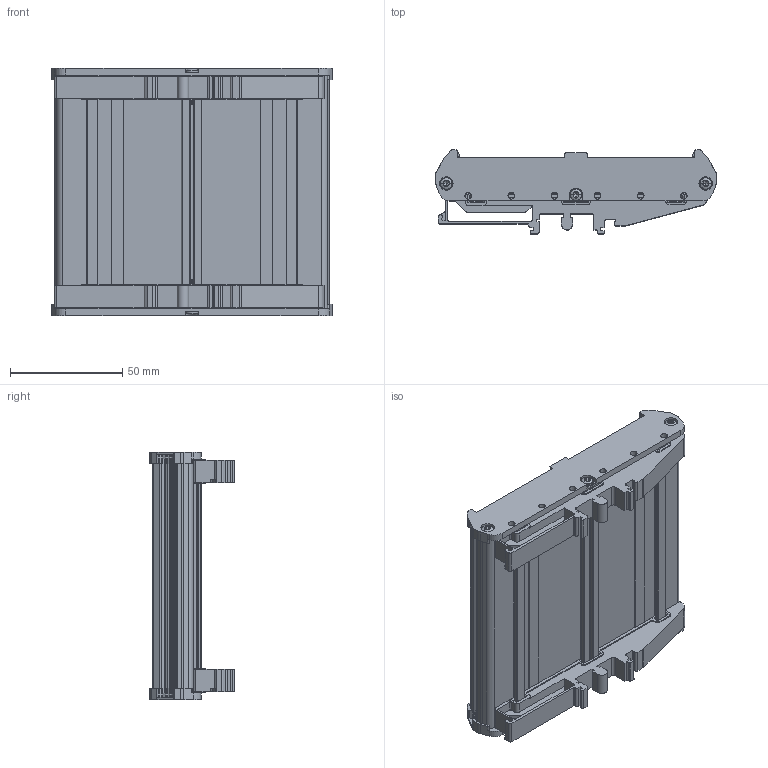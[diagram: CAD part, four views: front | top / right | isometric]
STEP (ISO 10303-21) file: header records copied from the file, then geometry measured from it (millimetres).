
FILE_DESCRIPTION(/* description */ (''),/* implementation_level */ '2;1');
FILE_NAME(/* name */ 'C:\Users\thijs\Desktop\Zilvertron\Phoenix\6001695\6001695.stp',/* time_stamp */ '2019-11-01T15:05:30+01:00',/* author */ ('thijs'),/* organization */ (''),/* preprocessor_version */ 'ST-DEVELOPER v18',/* originating_system */ 'Autodesk Inventor 2020',/* authorisation */ '');
FILE_SCHEMA (('AUTOMOTIVE_DESIGN { 1 0 10303 214 3 1 1 }'));
Length unit declared in the file: millimetre
Products named in the file (8): 6001695; UM_108_Profil_H_L=104; 39297; 39297_05; 39297_06; 39297_07; 39297_08; 39296
Assembly tree (9 placements, depth 3):
  6001695
    39297  x2
      39297_05
      39297_06
      39297_07
      39297_08
    UM_108_Profil_H_L=104
    39296  x2
Bounding box: 125.4 x 37.45 x 110 mm (x, y, z)
Volume: 73487.8 mm3; surface area: 71978.3 mm2
Topology: 11 solids, 11 shells, 1948 faces, 5260 edges, 3338 vertices
Faces by surface type: plane 908, cylinder 708, cone 288, torus 24, sphere 12, bspline 8
Full cylindrical faces by diameter (mm): 3 x2
Entity records: 36075 total; most frequent: CARTESIAN_POINT 8116, DIRECTION 5975, ORIENTED_EDGE 5808, EDGE_CURVE 2904, AXIS2_PLACEMENT_3D 2088, VERTEX_POINT 1856, LINE 1799, VECTOR 1799
